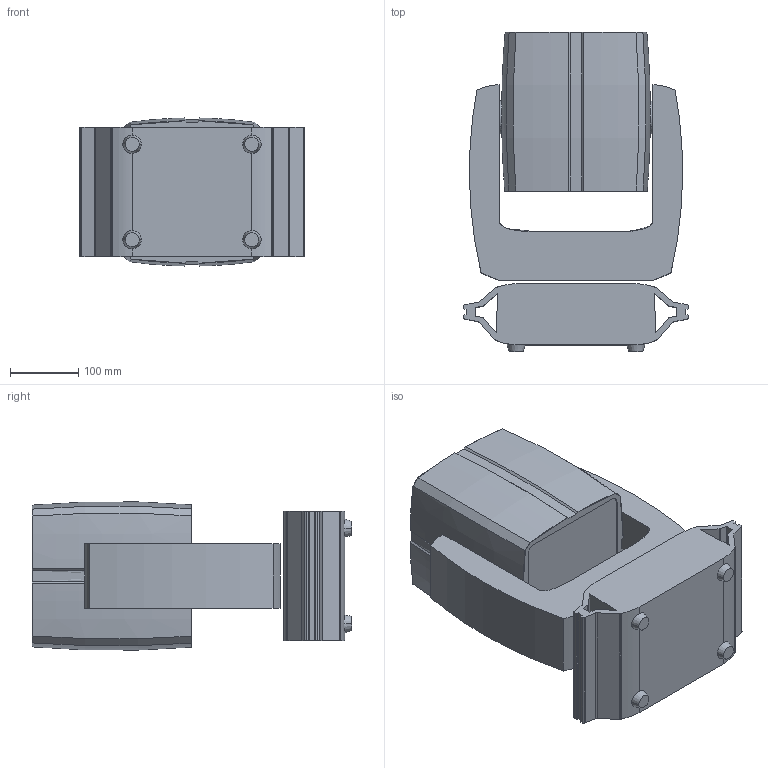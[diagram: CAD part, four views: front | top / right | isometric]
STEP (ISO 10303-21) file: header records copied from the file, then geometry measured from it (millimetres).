
FILE_DESCRIPTION((''),'2;1');
FILE_NAME('TWYN-SIMPLE_ASM','2025-10-15T14:12:29',('LeovomKolke'),(''),'CREO PARAMETRIC BY PTC INC, 2024133','CREO PARAMETRIC BY PTC INC, 2024133','');
FILE_SCHEMA(('AUTOMOTIVE_DESIGN { 1 0 10303 214 1 1 1 1 }'));
Length unit declared in the file: millimetre
Products named in the file (7): GLP-17541_5_58; GLP-17541_5_ASM; GLP-17542_3_32; GLP-17542_3_ASM; GLP-17543_5; ASM0014_ASM_1_ASM; TWYN-SIMPLE_ASM
Assembly tree (6 placements, depth 4):
  TWYN-SIMPLE_ASM
    ASM0014_ASM_1_ASM
      GLP-17541_5_ASM
        GLP-17541_5_58
      GLP-17542_3_ASM
        GLP-17542_3_32
      GLP-17543_5
Bounding box: 330.19 x 469.4 x 217.46 mm (x, y, z)
Volume: 18046717.5 mm3; surface area: 742972.5 mm2
Topology: 3 solids, 3 shells, 198 faces, 520 edges, 331 vertices
Faces by surface type: plane 100, cylinder 66, cone 20, torus 8, extrusion 4
Entity records: 8341 total; most frequent: CARTESIAN_POINT 1581, DIRECTION 1170, ORIENTED_EDGE 1038, EDGE_CURVE 519, AXIS2_PLACEMENT_3D 415, PRESENTATION_LAYER_ASSIGNMENT 406, VERTEX_POINT 329, VECTOR 322
